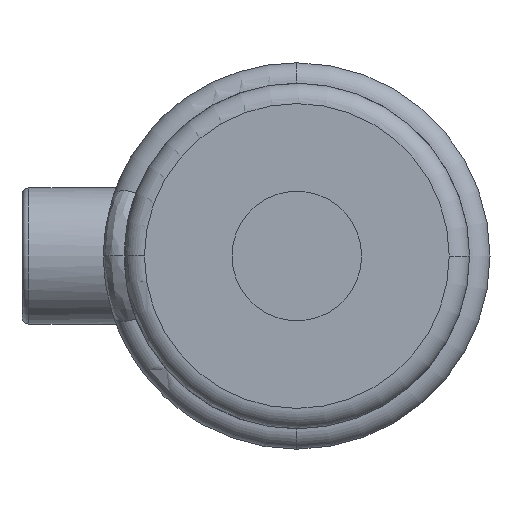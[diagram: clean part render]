
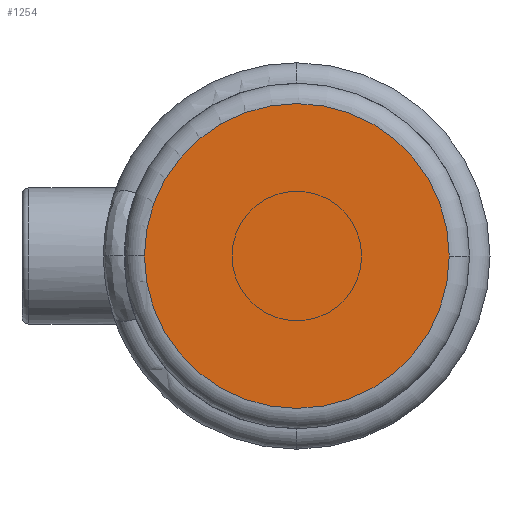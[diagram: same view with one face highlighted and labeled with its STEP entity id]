
A CAD part, left-side view. The second image highlights one B-rep face of the part: STEP entity #1254.
In plain terms, the highlighted planar face has unit normal (-1, 0, 0).
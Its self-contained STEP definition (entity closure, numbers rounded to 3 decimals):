
#219 = DIRECTION ( 'NONE',  ( 0., -1., 0. ) ) ;
#231 = CARTESIAN_POINT ( 'NONE',  ( 0., -22.4, 0. ) ) ;
#285 = AXIS2_PLACEMENT_3D ( 'NONE', #3262, #4133, #3132 ) ;
#641 = VERTEX_POINT ( 'NONE', #1080 ) ;
#1080 = CARTESIAN_POINT ( 'NONE',  ( 0., 22.4, 0. ) ) ;
#1111 = CIRCLE ( 'NONE', #2638, 22.4 ) ;
#1254 = ADVANCED_FACE ( 'NONE', ( #1639 ), #2946, .T. ) ;
#1589 = CIRCLE ( 'NONE', #3236, 22.4 ) ;
#1639 = FACE_OUTER_BOUND ( 'NONE', #1764, .T. ) ;
#1764 = EDGE_LOOP ( 'NONE', ( #3493, #3282 ) ) ;
#1788 = DIRECTION ( 'NONE',  ( -1., 0., 0. ) ) ;
#2169 = EDGE_CURVE ( 'NONE', #4117, #641, #1589, .T. ) ;
#2232 = DIRECTION ( 'NONE',  ( -1., 0., 0. ) ) ;
#2638 = AXIS2_PLACEMENT_3D ( 'NONE', #4231, #2232, #219 ) ;
#2946 = PLANE ( 'NONE',  #285 ) ;
#3132 = DIRECTION ( 'NONE',  ( 0., -1., 0. ) ) ;
#3146 = EDGE_CURVE ( 'NONE', #641, #4117, #1111, .T. ) ;
#3236 = AXIS2_PLACEMENT_3D ( 'NONE', #3796, #1788, #4123 ) ;
#3262 = CARTESIAN_POINT ( 'NONE',  ( 0., 0., 0. ) ) ;
#3282 = ORIENTED_EDGE ( 'NONE', *, *, #3146, .T. ) ;
#3493 = ORIENTED_EDGE ( 'NONE', *, *, #2169, .T. ) ;
#3796 = CARTESIAN_POINT ( 'NONE',  ( 0., 0., 0. ) ) ;
#4117 = VERTEX_POINT ( 'NONE', #231 ) ;
#4123 = DIRECTION ( 'NONE',  ( 0., -1., 0. ) ) ;
#4133 = DIRECTION ( 'NONE',  ( -1., 0., 0. ) ) ;
#4231 = CARTESIAN_POINT ( 'NONE',  ( 0., 0., 0. ) ) ;
